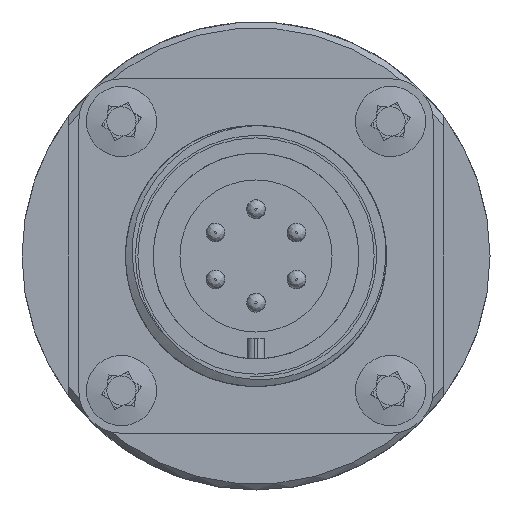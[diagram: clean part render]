
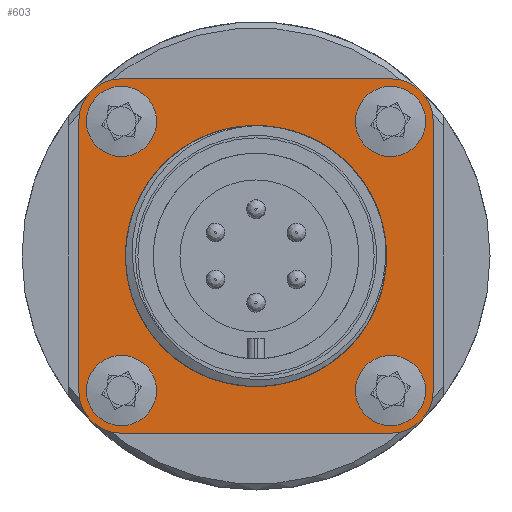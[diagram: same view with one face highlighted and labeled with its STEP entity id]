
A CAD part, front view. The second image highlights one B-rep face of the part: STEP entity #603.
In plain terms, the highlighted planar face has unit normal (0, -1, 0) as drawn and (-1, 0, 0) by its records, which use the part's own axes.
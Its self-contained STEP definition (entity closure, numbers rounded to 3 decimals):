
#603 = ADVANCED_FACE( '', ( #1212, #1213, #1214, #1215, #1216, #1217 ), #1218, .F. );
#1212 = FACE_BOUND( '', #4168, .T. );
#1213 = FACE_BOUND( '', #4169, .T. );
#1214 = FACE_OUTER_BOUND( '', #4170, .T. );
#1215 = FACE_BOUND( '', #4171, .T. );
#1216 = FACE_BOUND( '', #4172, .T. );
#1217 = FACE_BOUND( '', #4173, .T. );
#1218 = PLANE( '', #4174 );
#4168 = EDGE_LOOP( '', ( #7510 ) );
#4169 = EDGE_LOOP( '', ( #7511 ) );
#4170 = EDGE_LOOP( '', ( #7512, #7513, #7514, #7515, #7516, #7517, #7518, #7519 ) );
#4171 = EDGE_LOOP( '', ( #7520 ) );
#4172 = EDGE_LOOP( '', ( #7521 ) );
#4173 = EDGE_LOOP( '', ( #7522 ) );
#4174 = AXIS2_PLACEMENT_3D( '', #7523, #7524, #7525 );
#7510 = ORIENTED_EDGE( '', *, *, #8472, .T. );
#7511 = ORIENTED_EDGE( '', *, *, #8308, .T. );
#7512 = ORIENTED_EDGE( '', *, *, #8473, .F. );
#7513 = ORIENTED_EDGE( '', *, *, #8163, .F. );
#7514 = ORIENTED_EDGE( '', *, *, #8474, .F. );
#7515 = ORIENTED_EDGE( '', *, *, #8475, .F. );
#7516 = ORIENTED_EDGE( '', *, *, #8102, .F. );
#7517 = ORIENTED_EDGE( '', *, *, #8139, .F. );
#7518 = ORIENTED_EDGE( '', *, *, #8476, .F. );
#7519 = ORIENTED_EDGE( '', *, *, #8318, .F. );
#7520 = ORIENTED_EDGE( '', *, *, #8253, .T. );
#7521 = ORIENTED_EDGE( '', *, *, #8477, .T. );
#7522 = ORIENTED_EDGE( '', *, *, #8478, .T. );
#7523 = CARTESIAN_POINT( '', ( -2.4, -11.5, 11.5 ) );
#7524 = DIRECTION( '', ( 1., 0., 0. ) );
#7525 = DIRECTION( '', ( 0., 1., 0. ) );
#8102 = EDGE_CURVE( '', #8627, #8629, #8630, .T. );
#8139 = EDGE_CURVE( '', #8694, #8627, #8696, .T. );
#8163 = EDGE_CURVE( '', #8732, #8734, #8735, .T. );
#8253 = EDGE_CURVE( '', #8880, #8880, #8881, .T. );
#8308 = EDGE_CURVE( '', #8969, #8969, #8970, .T. );
#8318 = EDGE_CURVE( '', #8986, #8988, #8989, .T. );
#8472 = EDGE_CURVE( '', #9211, #9211, #9212, .T. );
#8473 = EDGE_CURVE( '', #8734, #8986, #9213, .T. );
#8474 = EDGE_CURVE( '', #9214, #8732, #9215, .T. );
#8475 = EDGE_CURVE( '', #8629, #9214, #9216, .T. );
#8476 = EDGE_CURVE( '', #8988, #8694, #9217, .T. );
#8477 = EDGE_CURVE( '', #9218, #9218, #9219, .T. );
#8478 = EDGE_CURVE( '', #9220, #9220, #9221, .T. );
#8627 = VERTEX_POINT( '', #9391 );
#8629 = VERTEX_POINT( '', #9394 );
#8630 = CIRCLE( '', #9395, 3.65 );
#8694 = VERTEX_POINT( '', #9638 );
#8696 = LINE( '', #9641, #9642 );
#8732 = VERTEX_POINT( '', #9701 );
#8734 = VERTEX_POINT( '', #9704 );
#8735 = LINE( '', #9705, #9706 );
#8880 = VERTEX_POINT( '', #10674 );
#8881 = CIRCLE( '', #10675, 1.5 );
#8969 = VERTEX_POINT( '', #11136 );
#8970 = CIRCLE( '', #11137, 1.5 );
#8986 = VERTEX_POINT( '', #11157 );
#8988 = VERTEX_POINT( '', #11160 );
#8989 = LINE( '', #11161, #11162 );
#9211 = VERTEX_POINT( '', #12540 );
#9212 = CIRCLE( '', #12541, 11.15 );
#9213 = CIRCLE( '', #12542, 3.65 );
#9214 = VERTEX_POINT( '', #12543 );
#9215 = CIRCLE( '', #12544, 3.65 );
#9216 = LINE( '', #12545, #12546 );
#9217 = CIRCLE( '', #12547, 3.65 );
#9218 = VERTEX_POINT( '', #12548 );
#9219 = CIRCLE( '', #12549, 1.5 );
#9220 = VERTEX_POINT( '', #12550 );
#9221 = CIRCLE( '', #12551, 1.5 );
#9391 = CARTESIAN_POINT( '', ( -2.4, 11.5, -15.15 ) );
#9394 = CARTESIAN_POINT( '', ( -2.4, 15.15, -11.5 ) );
#9395 = AXIS2_PLACEMENT_3D( '', #13245, #13246, #13247 );
#9638 = CARTESIAN_POINT( '', ( -2.4, -11.5, -15.15 ) );
#9641 = CARTESIAN_POINT( '', ( -2.4, -11.5, -15.15 ) );
#9642 = VECTOR( '', #13291, 1000. );
#9701 = CARTESIAN_POINT( '', ( -2.4, 11.5, 15.15 ) );
#9704 = CARTESIAN_POINT( '', ( -2.4, -11.5, 15.15 ) );
#9705 = CARTESIAN_POINT( '', ( -2.4, -11.5, 15.15 ) );
#9706 = VECTOR( '', #13322, 1000. );
#10674 = CARTESIAN_POINT( '', ( -2.4, 13., 11.5 ) );
#10675 = AXIS2_PLACEMENT_3D( '', #13429, #13430, #13431 );
#11136 = CARTESIAN_POINT( '', ( -2.4, -10., 11.5 ) );
#11137 = AXIS2_PLACEMENT_3D( '', #13505, #13506, #13507 );
#11157 = CARTESIAN_POINT( '', ( -2.4, -15.15, 11.5 ) );
#11160 = CARTESIAN_POINT( '', ( -2.4, -15.15, -11.5 ) );
#11161 = CARTESIAN_POINT( '', ( -2.4, -15.15, 11.5 ) );
#11162 = VECTOR( '', #13519, 1000. );
#12540 = CARTESIAN_POINT( '', ( -2.4, 11.15, 0. ) );
#12541 = AXIS2_PLACEMENT_3D( '', #13710, #13711, #13712 );
#12542 = AXIS2_PLACEMENT_3D( '', #13713, #13714, #13715 );
#12543 = CARTESIAN_POINT( '', ( -2.4, 15.15, 11.5 ) );
#12544 = AXIS2_PLACEMENT_3D( '', #13716, #13717, #13718 );
#12545 = CARTESIAN_POINT( '', ( -2.4, 15.15, 11.5 ) );
#12546 = VECTOR( '', #13719, 1000. );
#12547 = AXIS2_PLACEMENT_3D( '', #13720, #13721, #13722 );
#12548 = CARTESIAN_POINT( '', ( -2.4, 13., -11.5 ) );
#12549 = AXIS2_PLACEMENT_3D( '', #13723, #13724, #13725 );
#12550 = CARTESIAN_POINT( '', ( -2.4, -10., -11.5 ) );
#12551 = AXIS2_PLACEMENT_3D( '', #13726, #13727, #13728 );
#13245 = CARTESIAN_POINT( '', ( -2.4, 11.5, -11.5 ) );
#13246 = DIRECTION( '', ( 1., 0., 0. ) );
#13247 = DIRECTION( '', ( 0., -1., 0. ) );
#13291 = DIRECTION( '', ( 0., 1., 0. ) );
#13322 = DIRECTION( '', ( 0., -1., 0. ) );
#13429 = CARTESIAN_POINT( '', ( -2.4, 11.5, 11.5 ) );
#13430 = DIRECTION( '', ( 1., 0., 0. ) );
#13431 = DIRECTION( '', ( 0., 1., 0. ) );
#13505 = CARTESIAN_POINT( '', ( -2.4, -11.5, 11.5 ) );
#13506 = DIRECTION( '', ( 1., 0., 0. ) );
#13507 = DIRECTION( '', ( 0., 1., 0. ) );
#13519 = DIRECTION( '', ( 0., 0., -1. ) );
#13710 = CARTESIAN_POINT( '', ( -2.4, 0., 0. ) );
#13711 = DIRECTION( '', ( 1., 0., 0. ) );
#13712 = DIRECTION( '', ( 0., 1., 0. ) );
#13713 = CARTESIAN_POINT( '', ( -2.4, -11.5, 11.5 ) );
#13714 = DIRECTION( '', ( 1., 0., 0. ) );
#13715 = DIRECTION( '', ( 0., 1., 0. ) );
#13716 = CARTESIAN_POINT( '', ( -2.4, 11.5, 11.5 ) );
#13717 = DIRECTION( '', ( 1., 0., 0. ) );
#13718 = DIRECTION( '', ( 0., 1., 0. ) );
#13719 = DIRECTION( '', ( 0., 0., 1. ) );
#13720 = CARTESIAN_POINT( '', ( -2.4, -11.5, -11.5 ) );
#13721 = DIRECTION( '', ( 1., 0., 0. ) );
#13722 = DIRECTION( '', ( 0., 1., 0. ) );
#13723 = CARTESIAN_POINT( '', ( -2.4, 11.5, -11.5 ) );
#13724 = DIRECTION( '', ( 1., 0., 0. ) );
#13725 = DIRECTION( '', ( 0., 1., 0. ) );
#13726 = CARTESIAN_POINT( '', ( -2.4, -11.5, -11.5 ) );
#13727 = DIRECTION( '', ( 1., 0., 0. ) );
#13728 = DIRECTION( '', ( 0., 1., 0. ) );
